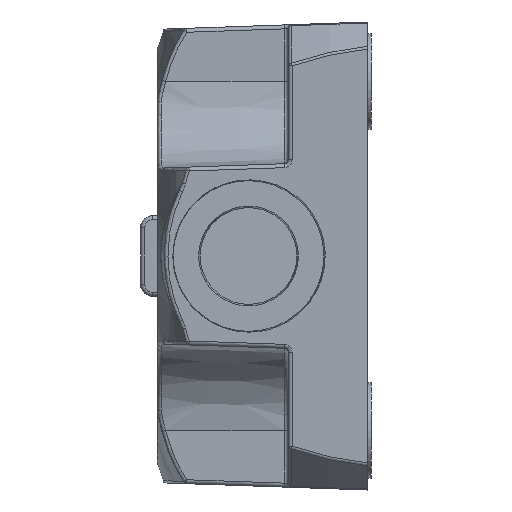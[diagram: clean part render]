
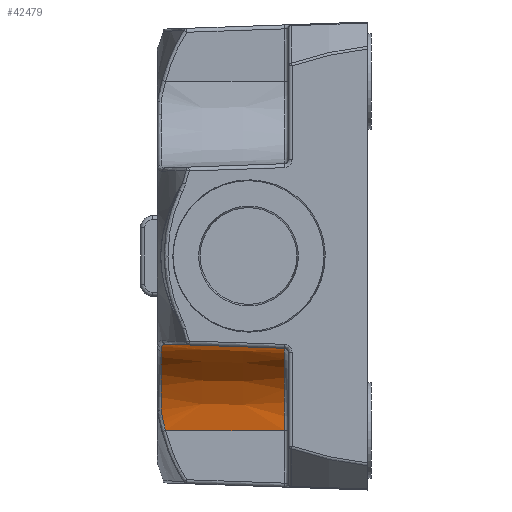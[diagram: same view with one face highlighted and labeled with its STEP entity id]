
A CAD part, left-side view. The second image highlights one B-rep face of the part: STEP entity #42479.
In plain terms, the highlighted conical face has half-angle 2 degrees and reference radius 10 mm.
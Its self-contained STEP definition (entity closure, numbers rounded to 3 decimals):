
#9 = CARTESIAN_POINT ( 'NONE',  ( -23.399, 26.517, -19.428 ) ) ;
#1617 = VECTOR ( 'NONE', #41028, 1000. ) ;
#2001 = B_SPLINE_CURVE_WITH_KNOTS ( 'NONE', 3,
 ( #9, #22042, #33307, #4179 ),
 .UNSPECIFIED., .F., .F.,
 ( 4, 4 ),
 ( 0., 0.003 ),
 .UNSPECIFIED. ) ;
#2655 = CARTESIAN_POINT ( 'NONE',  ( -23.634, 10.983, -22. ) ) ;
#3167 = ORIENTED_EDGE ( 'NONE', *, *, #35877, .T. ) ;
#3706 = ORIENTED_EDGE ( 'NONE', *, *, #16103, .T. ) ;
#4179 = CARTESIAN_POINT ( 'NONE',  ( -23.111, 25.959, -22. ) ) ;
#4187 = VERTEX_POINT ( 'NONE', #2655 ) ;
#4797 = CARTESIAN_POINT ( 'NONE',  ( -31.308, 26.517, -11.429 ) ) ;
#6458 = DIRECTION ( 'NONE',  ( 0., 1., 0. ) ) ;
#6503 = AXIS2_PLACEMENT_3D ( 'NONE', #13788, #6458, #28721 ) ;
#7025 = AXIS2_PLACEMENT_3D ( 'NONE', #30151, #11306, #11536 ) ;
#8074 = VERTEX_POINT ( 'NONE', #41459 ) ;
#8529 = CONICAL_SURFACE ( 'NONE', #7025, 10., 0.035 ) ;
#10968 = CARTESIAN_POINT ( 'NONE',  ( -34., 10.983, -22. ) ) ;
#11306 = DIRECTION ( 'NONE',  ( 0., 1., 0. ) ) ;
#11536 = DIRECTION ( 'NONE',  ( 0., 0., 1. ) ) ;
#11540 = VECTOR ( 'NONE', #29884, 1000. ) ;
#13427 = ORIENTED_EDGE ( 'NONE', *, *, #29129, .F. ) ;
#13788 = CARTESIAN_POINT ( 'NONE',  ( -34., 26.517, -22. ) ) ;
#15630 = EDGE_LOOP ( 'NONE', ( #13427, #38654, #24671, #16284, #3706, #3167 ) ) ;
#16103 = EDGE_CURVE ( 'NONE', #35986, #16674, #29130, .T. ) ;
#16284 = ORIENTED_EDGE ( 'NONE', *, *, #19913, .T. ) ;
#16605 = B_SPLINE_CURVE_WITH_KNOTS ( 'NONE', 3,
 ( #43466, #21230, #40070, #24392 ),
 .UNSPECIFIED., .F., .F.,
 ( 4, 4 ),
 ( 0., 0.003 ),
 .UNSPECIFIED. ) ;
#16674 = VERTEX_POINT ( 'NONE', #46663 ) ;
#18400 = CARTESIAN_POINT ( 'NONE',  ( -24., 0.5, -22. ) ) ;
#19156 = FACE_OUTER_BOUND ( 'NONE', #15630, .T. ) ;
#19913 = EDGE_CURVE ( 'NONE', #33516, #35986, #16605, .T. ) ;
#21230 = CARTESIAN_POINT ( 'NONE',  ( -33.103, 26.171, -11.104 ) ) ;
#21667 = VERTEX_POINT ( 'NONE', #21746 ) ;
#21746 = CARTESIAN_POINT ( 'NONE',  ( -23.111, 25.959, -22. ) ) ;
#22042 = CARTESIAN_POINT ( 'NONE',  ( -23.197, 26.377, -20.283 ) ) ;
#22351 = EDGE_CURVE ( 'NONE', #4187, #8074, #48023, .T. ) ;
#24392 = CARTESIAN_POINT ( 'NONE',  ( -31.308, 26.517, -11.429 ) ) ;
#24671 = ORIENTED_EDGE ( 'NONE', *, *, #34392, .T. ) ;
#24924 = DIRECTION ( 'NONE',  ( 0., 0., -1. ) ) ;
#27286 = CARTESIAN_POINT ( 'NONE',  ( -34., 25.905, -11.113 ) ) ;
#28721 = DIRECTION ( 'NONE',  ( 0., 0., 1. ) ) ;
#29129 = EDGE_CURVE ( 'NONE', #4187, #21667, #29650, .T. ) ;
#29130 = CIRCLE ( 'NONE', #6503, 10.909 ) ;
#29650 = LINE ( 'NONE', #18400, #11540 ) ;
#29884 = DIRECTION ( 'NONE',  ( 0.035, 0.999, 0. ) ) ;
#30151 = CARTESIAN_POINT ( 'NONE',  ( -34., 0.5, -22. ) ) ;
#33251 = AXIS2_PLACEMENT_3D ( 'NONE', #10968, #47391, #24924 ) ;
#33307 = CARTESIAN_POINT ( 'NONE',  ( -23.103, 26.199, -21.143 ) ) ;
#33516 = VERTEX_POINT ( 'NONE', #27286 ) ;
#34187 = LINE ( 'NONE', #41513, #1617 ) ;
#34392 = EDGE_CURVE ( 'NONE', #8074, #33516, #34187, .T. ) ;
#35877 = EDGE_CURVE ( 'NONE', #16674, #21667, #2001, .T. ) ;
#35986 = VERTEX_POINT ( 'NONE', #4797 ) ;
#38654 = ORIENTED_EDGE ( 'NONE', *, *, #22351, .T. ) ;
#40070 = CARTESIAN_POINT ( 'NONE',  ( -32.203, 26.367, -11.206 ) ) ;
#41028 = DIRECTION ( 'NONE',  ( 0., 0.999, 0.035 ) ) ;
#41459 = CARTESIAN_POINT ( 'NONE',  ( -34., 10.983, -11.634 ) ) ;
#41513 = CARTESIAN_POINT ( 'NONE',  ( -34., 0.5, -12. ) ) ;
#42479 = ADVANCED_FACE ( 'NONE', ( #19156 ), #8529, .F. ) ;
#43466 = CARTESIAN_POINT ( 'NONE',  ( -34., 25.905, -11.113 ) ) ;
#46663 = CARTESIAN_POINT ( 'NONE',  ( -23.399, 26.517, -19.428 ) ) ;
#47391 = DIRECTION ( 'NONE',  ( 0., -1., 0. ) ) ;
#48023 = CIRCLE ( 'NONE', #33251, 10.366 ) ;
